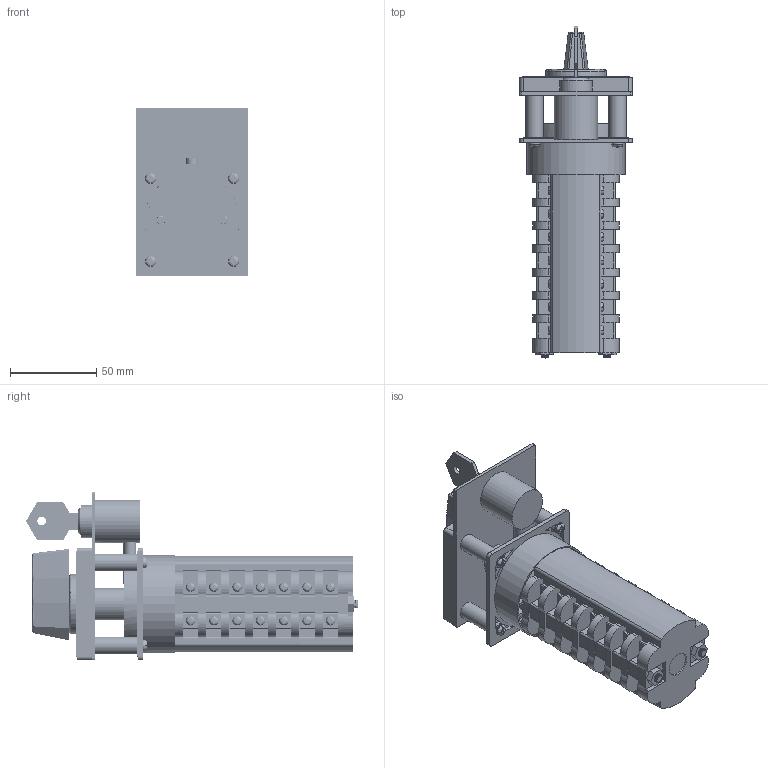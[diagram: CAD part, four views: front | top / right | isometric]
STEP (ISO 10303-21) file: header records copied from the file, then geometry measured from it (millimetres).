
FILE_DESCRIPTION(/* description */ (''),/* implementation_level */ '2;1');
FILE_NAME(/* name */ '4G16,25_S5_7_korpusow.stp',/* time_stamp */ '2021-07-21T12:19:25+02:00',/* author */ (''),/* organization */ (''),/* preprocessor_version */ 'ST-DEVELOPER v18.1',/* originating_system */ 'SIEMENS PLM Software NX 1965',/* authorisation */ '');
FILE_SCHEMA (('AUTOMOTIVE_DESIGN { 1 0 10303 214 3 1 1 1 }'));
Products named in the file (1): 4G16,25_S5_7_korpusow_stp
Bounding box: 65 x 192.1 x 97.5 mm (x, y, z)
Volume: 355705 mm3; surface area: 84850.5 mm2
Topology: 2 solids, 13 shells, 1714 faces, 4773 edges, 3149 vertices
Faces by surface type: plane 1017, cylinder 467, bspline 167, cone 60, sphere 2, torus 1
Full cylindrical faces by diameter (mm): 3.3 x2, 4 x4, 4.3 x4, 5 x3, 5.4 x29, 6.4 x4, 6.5 x2, 7.2 x4, 7.5 x1, 10 x5, 14 x1, 15.8 x1, 19 x2, 21.2 x1, 25 x1, 35 x1, 57 x1
Entity records: 157114 total; most frequent: CARTESIAN_POINT 115200, ORIENTED_EDGE 9154, DIRECTION 7842, EDGE_CURVE 4577, VERTEX_POINT 3061, AXIS2_PLACEMENT_3D 2819, LINE 2204, VECTOR 2204
